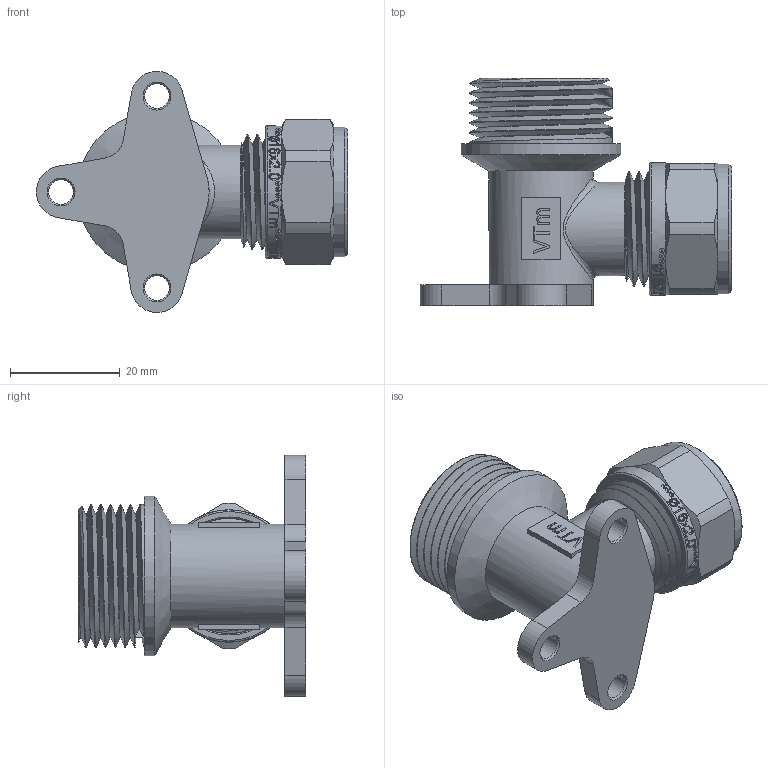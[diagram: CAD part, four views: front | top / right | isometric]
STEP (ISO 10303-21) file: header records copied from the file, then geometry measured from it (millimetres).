
FILE_DESCRIPTION(/* description */ (''),/* implementation_level */ '2;1');
FILE_NAME(/* name */ 'F:\Артём\00000\Работа удаленка\Обжимные фитинги\VTm.355.N.001604.stp',/* time_stamp */ '2020-08-10T15:25:20+03:00',/* author */ ('almis'),/* organization */ (''),/* preprocessor_version */ 'ST-DEVELOPER v18',/* originating_system */ 'Autodesk Inventor 2020',/* authorisation */ '');
FILE_SCHEMA (('AUTOMOTIVE_DESIGN { 1 0 10303 214 3 1 1 }'));
Length unit declared in the file: millimetre
Products named in the file (1): VTm.301.N.001604
Bounding box: 56.77 x 41.5 x 43.98 mm (x, y, z)
Volume: 16966.6 mm3; surface area: 13475.9 mm2
Topology: 1 solids, 2 shells, 781 faces, 2165 edges, 1451 vertices
Faces by surface type: bspline 365, plane 258, cylinder 101, cone 32, torus 25
Full cylindrical faces by diameter (mm): 4.5 x3, 8 x1, 9.4 x2, 11.75 x4, 14 x1, 16.124 x4, 16.2 x1, 16.724 x5, 17 x1, 17.124 x1, 17.4 x2, 18.724 x1, 19 x1, 20.4 x1, 21 x2, 22.5 x6, 23.624 x1, 24.124 x1, 26.1 x8, 29.1 x1
Entity records: 33146 total; most frequent: CARTESIAN_POINT 15397, ORIENTED_EDGE 4330, DIRECTION 2562, EDGE_CURVE 2165, VERTEX_POINT 1452, LINE 998, VECTOR 998, EDGE_LOOP 855
